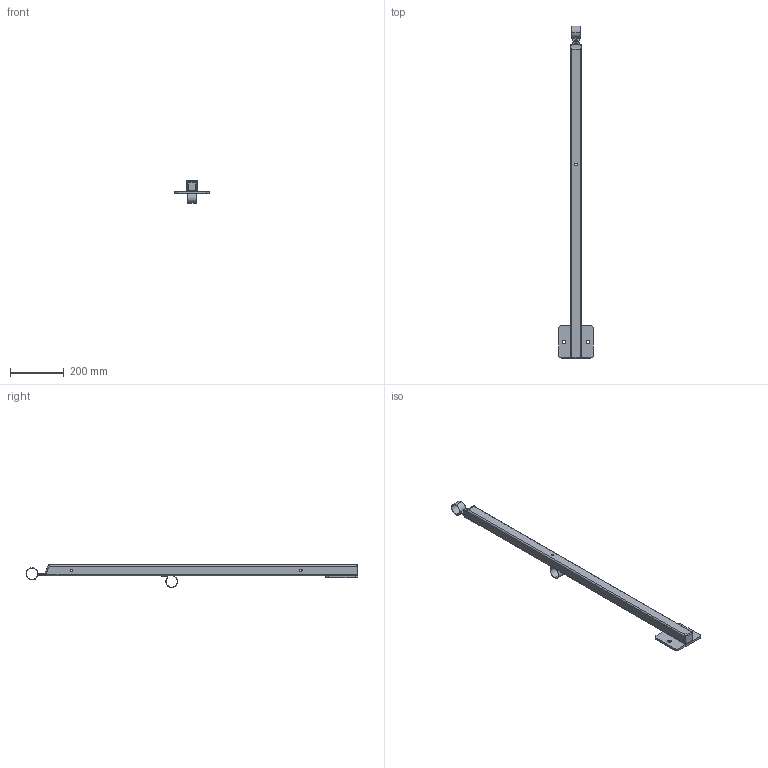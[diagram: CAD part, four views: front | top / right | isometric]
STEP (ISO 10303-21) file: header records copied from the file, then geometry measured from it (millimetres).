
FILE_DESCRIPTION (( 'STEP AP203' ), '1' );
FILE_NAME ('Ståndare KKR 40x40x3 sidomontage för följare.STEP', '2014-09-26T06:37:54', ( '' ), ( '' ), 'SwSTEP 2.0', 'SolidWorks 2014', '' );
FILE_SCHEMA (( 'CONFIG_CONTROL_DESIGN' ));
Length unit declared in the file: millimetre
Products named in the file (1): Ståndare KKR 40x40x3 sidomontage för följare
Bounding box: 130 x 1236.5 x 84.77 mm (x, y, z)
Volume: 642032.5 mm3; surface area: 393047.9 mm2
Topology: 2 solids, 2 shells, 333 faces, 877 edges, 536 vertices
Faces by surface type: plane 195, cylinder 130, bspline 8
Entity records: 10482 total; most frequent: CARTESIAN_POINT 2265, ORIENTED_EDGE 1738, DIRECTION 1647, EDGE_CURVE 869, LINE 611, VECTOR 611, VERTEX_POINT 536, AXIS2_PLACEMENT_3D 518
